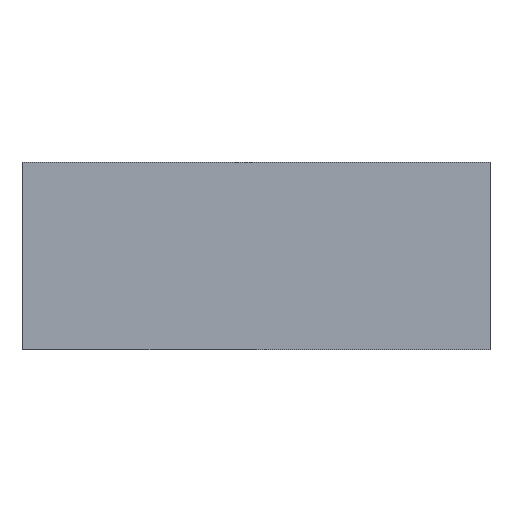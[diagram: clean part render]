
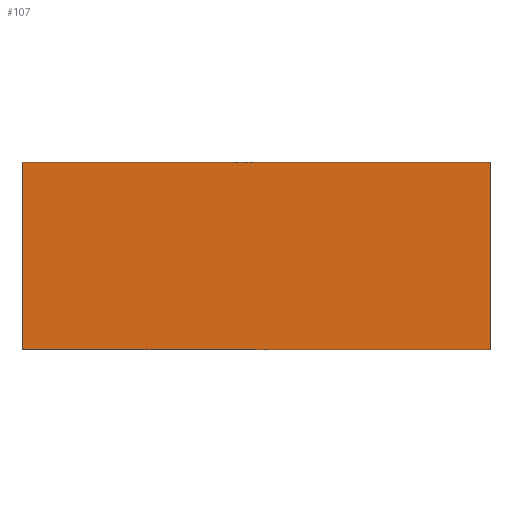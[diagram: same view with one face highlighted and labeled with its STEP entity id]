
A CAD part, front view. The second image highlights one B-rep face of the part: STEP entity #107.
In plain terms, the highlighted planar face has unit normal (0, -1, 0).
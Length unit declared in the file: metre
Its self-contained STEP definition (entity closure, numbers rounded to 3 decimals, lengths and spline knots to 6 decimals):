
#24=ORIENTED_EDGE('',*,*,#41,.T.);
#25=ORIENTED_EDGE('',*,*,#45,.T.);
#26=ORIENTED_EDGE('',*,*,#38,.F.);
#27=ORIENTED_EDGE('',*,*,#46,.F.);
#38=EDGE_CURVE('',#50,#51,#58,.T.);
#41=EDGE_CURVE('',#54,#52,#61,.T.);
#45=EDGE_CURVE('',#52,#51,#65,.T.);
#46=EDGE_CURVE('',#54,#50,#66,.T.);
#50=VERTEX_POINT('',#198);
#51=VERTEX_POINT('',#200);
#52=VERTEX_POINT('',#204);
#54=VERTEX_POINT('',#207);
#58=LINE('',#199,#70);
#61=LINE('',#206,#73);
#65=LINE('',#213,#77);
#66=LINE('',#215,#78);
#70=VECTOR('',#172,1.);
#73=VECTOR('',#177,1.);
#77=VECTOR('',#183,1.);
#78=VECTOR('',#186,1.);
#83=EDGE_LOOP('',(#24,#25,#26,#27));
#89=FACE_BOUND('',#83,.T.);
#95=PLANE('',#163);
#107=ADVANCED_FACE('',(#89),#95,.T.);
#163=AXIS2_PLACEMENT_3D('',#214,#184,#185);
#172=DIRECTION('',(-1.,0.,0.));
#177=DIRECTION('',(-1.,0.,0.));
#183=DIRECTION('',(0.,0.,-1.));
#184=DIRECTION('',(0.,-1.,0.));
#185=DIRECTION('',(1.,0.,0.));
#186=DIRECTION('',(0.,0.,-1.));
#198=CARTESIAN_POINT('',(0.164055,-0.128475,0.002875));
#199=CARTESIAN_POINT('',(0.164055,-0.128475,0.002875));
#200=CARTESIAN_POINT('',(0.163805,-0.128475,0.002875));
#204=CARTESIAN_POINT('',(0.163805,-0.128475,0.002975));
#206=CARTESIAN_POINT('',(0.164055,-0.128475,0.002975));
#207=CARTESIAN_POINT('',(0.164055,-0.128475,0.002975));
#213=CARTESIAN_POINT('',(0.163805,-0.128475,0.002975));
#214=CARTESIAN_POINT('',(0.164055,-0.128475,0.002975));
#215=CARTESIAN_POINT('',(0.164055,-0.128475,0.002975));
